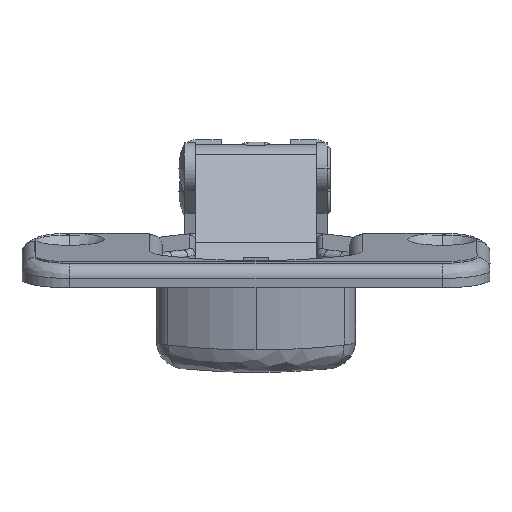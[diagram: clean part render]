
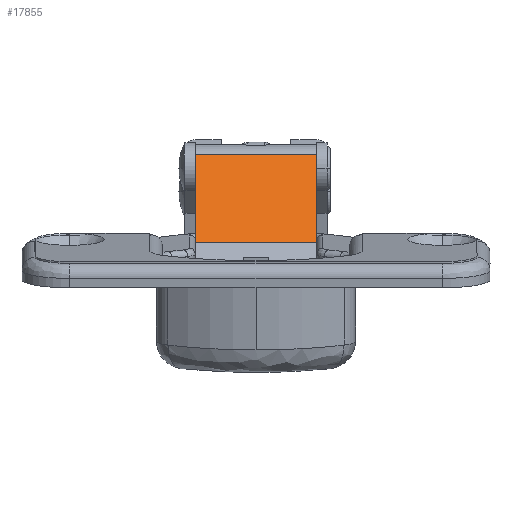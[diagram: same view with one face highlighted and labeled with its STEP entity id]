
A CAD part, top view. The second image highlights one B-rep face of the part: STEP entity #17855.
In plain terms, the highlighted planar face has unit normal (0, 0.598, 0.801) as drawn and (0.032, 0.999, 0) by its records, which use the part's own axes.
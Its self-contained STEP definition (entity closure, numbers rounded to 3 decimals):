
#1461 = EDGE_CURVE ( 'NONE', #26328, #26306, #17646, .T. ) ;
#1725 = EDGE_CURVE ( 'NONE', #26330, #26314, #17858, .T. ) ;
#3533 = DIRECTION ( 'NONE',  ( -0.999, 0.032, 0. ) ) ;
#3538 = CARTESIAN_POINT ( 'NONE',  ( 6.561, 3.102, -7. ) ) ;
#8205 = FACE_OUTER_BOUND ( 'NONE', #17589, .T. ) ;
#10777 = EDGE_CURVE ( 'NONE', #26328, #26330, #20465, .T. ) ;
#10778 = EDGE_CURVE ( 'NONE', #26306, #26314, #20477, .T. ) ;
#15178 = CARTESIAN_POINT ( 'NONE',  ( 6.561, 3.102, -7. ) ) ;
#15182 = PLANE ( 'NONE',  #24733 ) ;
#15184 = DIRECTION ( 'NONE',  ( -0.032, -0.999, 0. ) ) ;
#15185 = DIRECTION ( 'NONE',  ( 0.999, -0.032, 0. ) ) ;
#17291 = ORIENTED_EDGE ( 'NONE', *, *, #10778, .F. ) ;
#17292 = ORIENTED_EDGE ( 'NONE', *, *, #1461, .F. ) ;
#17293 = ORIENTED_EDGE ( 'NONE', *, *, #10777, .T. ) ;
#17294 = ORIENTED_EDGE ( 'NONE', *, *, #1725, .T. ) ;
#17589 = EDGE_LOOP ( 'NONE', ( #17291, #17292, #17293, #17294 ) ) ;
#17646 = LINE ( 'NONE', #29241, #17655 ) ;
#17655 = VECTOR ( 'NONE', #29250, 1000. ) ;
#17855 = ADVANCED_FACE ( 'NONE', ( #8205 ), #15182, .F. ) ;
#17858 = LINE ( 'NONE', #3538, #17867 ) ;
#17867 = VECTOR ( 'NONE', #3533, 1000. ) ;
#20465 = LINE ( 'NONE', #26872, #20480 ) ;
#20477 = LINE ( 'NONE', #26878, #20484 ) ;
#20480 = VECTOR ( 'NONE', #26877, 1000. ) ;
#20484 = VECTOR ( 'NONE', #26879, 1000. ) ;
#24733 = AXIS2_PLACEMENT_3D ( 'NONE', #15178, #15184, #15185 ) ;
#25453 = CARTESIAN_POINT ( 'NONE',  ( 6.561, 3.102, 7. ) ) ;
#25461 = CARTESIAN_POINT ( 'NONE',  ( 6.561, 3.102, -7. ) ) ;
#25475 = CARTESIAN_POINT ( 'NONE',  ( 19.286, 2.699, 7. ) ) ;
#25477 = CARTESIAN_POINT ( 'NONE',  ( 19.286, 2.699, -7. ) ) ;
#26306 = VERTEX_POINT ( 'NONE', #25453 ) ;
#26314 = VERTEX_POINT ( 'NONE', #25461 ) ;
#26328 = VERTEX_POINT ( 'NONE', #25475 ) ;
#26330 = VERTEX_POINT ( 'NONE', #25477 ) ;
#26872 = CARTESIAN_POINT ( 'NONE',  ( 19.286, 2.699, 0. ) ) ;
#26877 = DIRECTION ( 'NONE',  ( 0., 0., -1. ) ) ;
#26878 = CARTESIAN_POINT ( 'NONE',  ( 6.561, 3.102, 0. ) ) ;
#26879 = DIRECTION ( 'NONE',  ( 0., 0., -1. ) ) ;
#29241 = CARTESIAN_POINT ( 'NONE',  ( 19.286, 2.699, 7. ) ) ;
#29250 = DIRECTION ( 'NONE',  ( -0.999, 0.032, 0. ) ) ;
